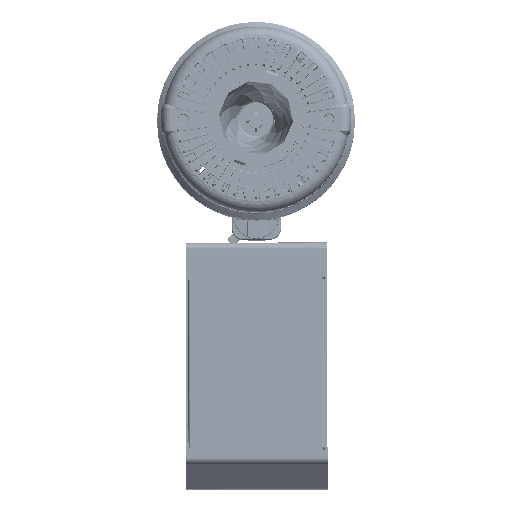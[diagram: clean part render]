
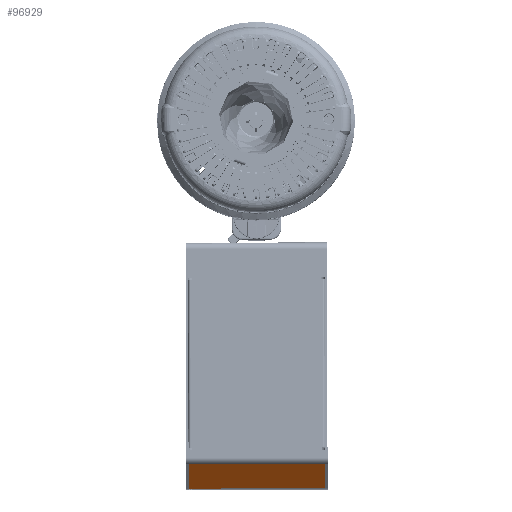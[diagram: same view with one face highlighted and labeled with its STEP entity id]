
A CAD part, front view. The second image highlights one B-rep face of the part: STEP entity #96929.
In plain terms, the highlighted planar face has unit normal (0.003, -0.364, -0.931) as drawn and (-0.94, -0.342, 0) by its records, which use the part's own axes.
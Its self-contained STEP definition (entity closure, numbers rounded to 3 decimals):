
#6750 = VECTOR ( 'NONE', #612367, 1000. ) ;
#15141 = EDGE_CURVE ( 'NONE', #795606, #573257, #481595, .T. ) ;
#76606 = EDGE_CURVE ( 'NONE', #846355, #573257, #781885, .T. ) ;
#96929 = ADVANCED_FACE ( 'NONE', ( #432454 ), #415215, .F. ) ;
#126073 = CARTESIAN_POINT ( 'NONE',  ( -80.487, 40.448, -46. ) ) ;
#146708 = VECTOR ( 'NONE', #851537, 1000. ) ;
#173030 = DIRECTION ( 'NONE',  ( 0.342, -0.94, 0. ) ) ;
#177416 = ORIENTED_EDGE ( 'NONE', *, *, #76606, .T. ) ;
#178680 = VERTEX_POINT ( 'NONE', #845281 ) ;
#195652 = ORIENTED_EDGE ( 'NONE', *, *, #533594, .T. ) ;
#207682 = CARTESIAN_POINT ( 'NONE',  ( -65.209, -1.528, 46. ) ) ;
#240877 = DIRECTION ( 'NONE',  ( 0.94, 0.342, 0. ) ) ;
#247291 = CARTESIAN_POINT ( 'NONE',  ( -80.487, 40.448, 46. ) ) ;
#291654 = ORIENTED_EDGE ( 'NONE', *, *, #432184, .F. ) ;
#320373 = CARTESIAN_POINT ( 'NONE',  ( -65.209, -1.528, -46. ) ) ;
#335018 = AXIS2_PLACEMENT_3D ( 'NONE', #349903, #240877, #519071 ) ;
#336439 = EDGE_LOOP ( 'NONE', ( #177416, #519463, #291654, #195652 ) ) ;
#349903 = CARTESIAN_POINT ( 'NONE',  ( -65.209, -1.528, 46. ) ) ;
#403195 = VECTOR ( 'NONE', #516892, 1000. ) ;
#415215 = PLANE ( 'NONE',  #335018 ) ;
#432184 = EDGE_CURVE ( 'NONE', #178680, #795606, #560408, .T. ) ;
#432454 = FACE_OUTER_BOUND ( 'NONE', #336439, .T. ) ;
#438504 = VECTOR ( 'NONE', #173030, 1000. ) ;
#481595 = LINE ( 'NONE', #207682, #6750 ) ;
#516892 = DIRECTION ( 'NONE',  ( 0., 0., -1. ) ) ;
#519071 = DIRECTION ( 'NONE',  ( -0.342, 0.94, 0. ) ) ;
#519463 = ORIENTED_EDGE ( 'NONE', *, *, #15141, .F. ) ;
#533594 = EDGE_CURVE ( 'NONE', #178680, #846355, #586620, .T. ) ;
#560408 = LINE ( 'NONE', #769381, #438504 ) ;
#573257 = VERTEX_POINT ( 'NONE', #708203 ) ;
#586620 = LINE ( 'NONE', #247291, #403195 ) ;
#612367 = DIRECTION ( 'NONE',  ( 0., 0., -1. ) ) ;
#708203 = CARTESIAN_POINT ( 'NONE',  ( -65.209, -1.528, -46. ) ) ;
#764936 = CARTESIAN_POINT ( 'NONE',  ( -65.209, -1.528, 46. ) ) ;
#769381 = CARTESIAN_POINT ( 'NONE',  ( -65.209, -1.528, 46. ) ) ;
#781885 = LINE ( 'NONE', #320373, #146708 ) ;
#795606 = VERTEX_POINT ( 'NONE', #764936 ) ;
#845281 = CARTESIAN_POINT ( 'NONE',  ( -80.487, 40.448, 46. ) ) ;
#846355 = VERTEX_POINT ( 'NONE', #126073 ) ;
#851537 = DIRECTION ( 'NONE',  ( 0.342, -0.94, 0. ) ) ;
